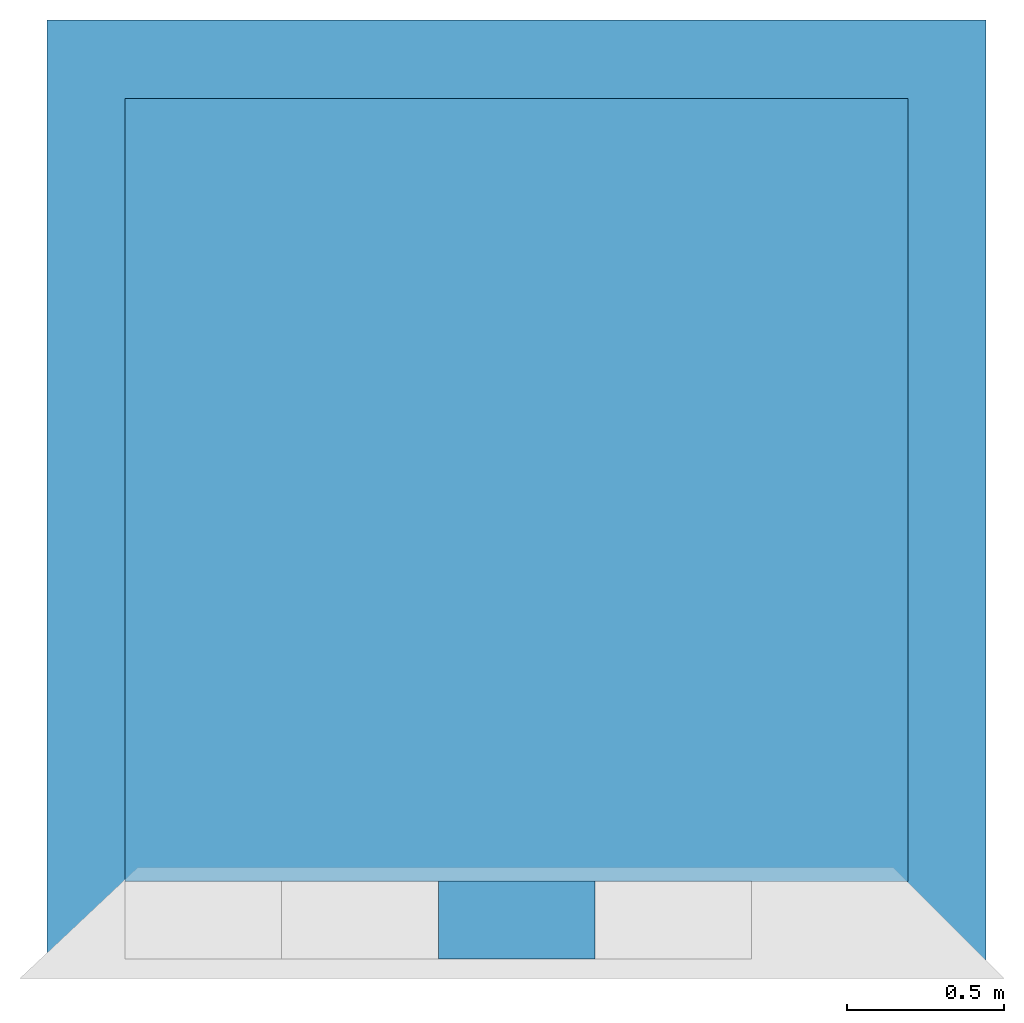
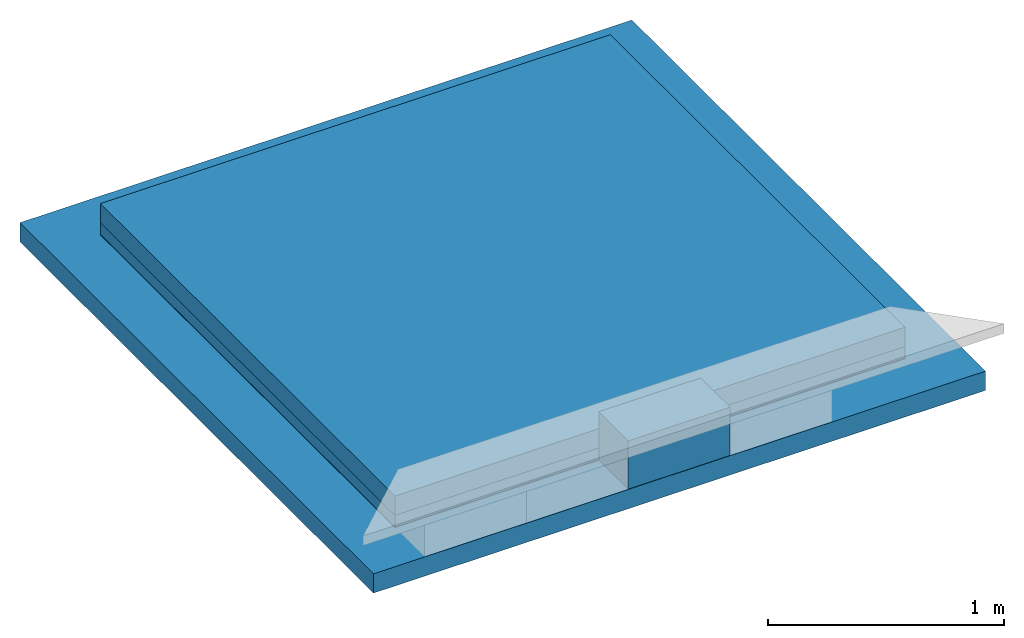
# One storey, part 2 of 3: 4 building element parts, 1 wall, 2 elements without a shape of their own.
"""IFC4 building model written with IfcOpenShell, lengths in centimetres."""

import ifcopenshell
import ifcopenshell.guid

model = None  # the IFC model being written
_history = None  # IfcOwnerHistory: only IFC2X3 demands one
_inside = {}  # id of a spatial element -> (the spatial element, [elements in it])
_under = {}  # id of a project, library or spatial element -> (it, [spatial elements below it])
_declared = {}  # id of a project -> (the project, [libraries it declares])
_typed = {}  # id of a type object -> (the type object, [elements of that type])
_made_of = {}  # id of a material, layer set ... -> (it, [elements and type objects made of it])


def new_model(schema):
    """Start an empty IFC model of exactly this schema.

    Asked for "IFC4X3", IfcOpenShell would pick the latest addendum, in which some entities
    have other attributes; the version numbers below select the first issue.
    IFC2X3 requires an IfcOwnerHistory on every rooted entity: one is made here for all.
    """
    global model, _history
    if schema == "IFC4X3":
        model = ifcopenshell.file(schema_version=(4, 3, 0, 0))
    else:
        model = ifcopenshell.file(schema=schema)
    _inside.clear()
    _under.clear()
    _declared.clear()
    _typed.clear()
    _made_of.clear()
    _history = None
    if model.schema == "IFC2X3":
        org = make("IfcOrganization", Name="unknown")
        user = make(
            "IfcPersonAndOrganization",
            ThePerson=make("IfcPerson", FamilyName="unknown"),
            TheOrganization=org,
        )
        app = make(
            "IfcApplication",
            ApplicationDeveloper=org,
            Version="unknown",
            ApplicationFullName="unknown",
            ApplicationIdentifier="unknown",
        )
        _history = make(
            "IfcOwnerHistory",
            OwningUser=user,
            OwningApplication=app,
            ChangeAction="ADDED",
            CreationDate=0,
        )
    return model


def make(cls, **values):
    """One entity of the class cls with the attributes given. An attribute that is None is left unset."""
    return model.create_entity(
        cls, **{name: value for name, value in values.items() if value is not None}
    )


def entity(cls, *values):
    """Any entity or typed value of the class cls, its attributes in the order of the schema. None: left unset."""
    e = model.create_entity(cls)
    for i, value in enumerate(values):
        if value is not None:
            e[i] = value
    return e


def rooted(cls, **values):
    """An entity with a GlobalId (a new one), such as an element, a storey or a relation."""
    return make(cls, GlobalId=ifcopenshell.guid.new(), OwnerHistory=_history, **values)


def si_unit(unit_type, name, prefix=None):
    """IfcSIUnit, for example si_unit("LENGTHUNIT", "METRE", prefix="MILLI")."""
    return make("IfcSIUnit", UnitType=unit_type, Prefix=prefix, Name=name)


def converted_unit(unit_type, name, factor, base, dimensions=None, offset=None):
    """IfcConversionBasedUnit, such as the inch: factor (a typed value) times the base unit."""
    return make(
        "IfcConversionBasedUnit"
        if offset is None
        else "IfcConversionBasedUnitWithOffset",
        ConversionOffset=offset,
        Dimensions=None
        if dimensions is None
        else entity("IfcDimensionalExponents", *dimensions),
        UnitType=unit_type,
        Name=name,
        ConversionFactor=make(
            "IfcMeasureWithUnit", ValueComponent=factor, UnitComponent=base
        ),
    )


def assignment(units):
    """IfcUnitAssignment: the units of a project."""
    return None if units is None else make("IfcUnitAssignment", Units=units)


def point(xyz):
    """IfcCartesianPoint."""
    return None if xyz is None else make("IfcCartesianPoint", Coordinates=xyz)


def direction(xyz):
    """IfcDirection."""
    return None if xyz is None else make("IfcDirection", DirectionRatios=xyz)


def frame(location, z_axis=None, x_axis=None):
    """IfcAxis2Placement3D, a coordinate frame: its origin and axes. An axis left out is left unset."""
    return make(
        "IfcAxis2Placement3D",
        Location=point(location),
        Axis=direction(z_axis),
        RefDirection=direction(x_axis),
    )


def origin():
    """The frame at (0, 0, 0) with its axes left unset."""
    return frame((0.0, 0.0, 0.0))


def place(relative_to, where):
    """IfcLocalPlacement: puts the frame where relative to a parent placement (None: the world)."""
    return make(
        "IfcLocalPlacement", PlacementRelTo=relative_to, RelativePlacement=where
    )


def context(
    kind, dimensions, precision=None, world=None, true_north=None, identifier=None
):
    """IfcGeometricRepresentationContext, for example the 3D "Model" context."""
    return make(
        "IfcGeometricRepresentationContext",
        ContextIdentifier=identifier,
        ContextType=kind,
        CoordinateSpaceDimension=dimensions,
        Precision=precision,
        WorldCoordinateSystem=world,
        TrueNorth=true_north,
    )


def subcontext(parent, identifier, kind, view, scale=None):
    """IfcGeometricRepresentationSubContext, for example "Body" below "Model"."""
    return make(
        "IfcGeometricRepresentationSubContext",
        ContextIdentifier=identifier,
        ContextType=kind,
        ParentContext=parent,
        TargetScale=scale,
        TargetView=view,
    )


def project(units=None, contexts=None):
    """IfcProject with its units and contexts."""
    return rooted(
        "IfcProject",
        Name="project",
        RepresentationContexts=contexts,
        UnitsInContext=assignment(units),
    )


def spatial(cls, under=None, at=None, **own):
    """A site, building, storey or space (cls), placed at a placement, below another one or the project."""
    s = rooted(cls, ObjectPlacement=at, **own)
    if under is not None:
        _under.setdefault(under.id(), (under, []))[1].append(s)
    return s


def point_list(points):
    """IfcCartesianPointList2D or 3D."""
    cls = (
        "IfcCartesianPointList2D" if len(points[0]) == 2 else "IfcCartesianPointList3D"
    )
    return make(cls, CoordList=points)


def indexed_curve(points, segments=None, self_intersect=None):
    """IfcIndexedPolyCurve: lines and arcs through numbered points (the first is 1)."""
    return make(
        "IfcIndexedPolyCurve",
        Points=point_list(points),
        Segments=segments,
        SelfIntersect=self_intersect,
    )


def outline(outer, holes=None, kind="AREA"):
    """IfcArbitraryClosedProfileDef: a profile drawn as a closed curve; with holes, ...WithVoids."""
    if holes is None:
        return make("IfcArbitraryClosedProfileDef", ProfileType=kind, OuterCurve=outer)
    return make(
        "IfcArbitraryProfileDefWithVoids",
        ProfileType=kind,
        OuterCurve=outer,
        InnerCurves=holes,
    )


def extrude(swept, where, along, depth):
    """IfcExtrudedAreaSolid: the profile swept, set in the frame where, extruded along a direction by depth."""
    return make(
        "IfcExtrudedAreaSolid",
        SweptArea=swept,
        Position=where,
        ExtrudedDirection=direction(along),
        Depth=depth,
    )


def shape(context_of_items, identifier, shape_type, items):
    """IfcShapeRepresentation: the items that make up one representation, for example the "Body"."""
    return make(
        "IfcShapeRepresentation",
        ContextOfItems=context_of_items,
        RepresentationIdentifier=identifier,
        RepresentationType=shape_type,
        Items=items,
    )


def material(Name=None, Category=None):
    """IfcMaterial."""
    return make("IfcMaterial", Name=Name, Category=Category)


def made_of(thing, what):
    """Note that an element or type object is made of a material, layer set ...; save() writes the relation."""
    if what is not None:
        _made_of.setdefault(what.id(), (what, []))[1].append(thing)
    return thing


def type_object(cls, material=None, **own):
    """A type object (cls), such as IfcWallType, which elements share."""
    return made_of(rooted(cls, **own), material)


def element(
    cls,
    number,
    at=None,
    inside=None,
    cuts=None,
    type_object=None,
    material=None,
    context=None,
    identifier="Body",
    shape_type=None,
    held_by="IfcProductDefinitionShape",
    body=None,
    shapes=None,
    **own,
):
    """One element of the class cls, such as IfcWall. Its Tag is "e" and its number.

    at: its placement. inside: the storey or other place that contains it. cuts: it is an
    opening in that element (IfcRelVoidsElement). A single representation is given by context,
    identifier, shape_type and body (its items); several are given by shapes. held_by: the class
    of the entity that holds the representations. save() writes the other relations.
    """
    e = rooted(cls, Tag="e%d" % number, ObjectPlacement=at, **own)
    if body is not None:
        shapes = [shape(context, identifier, shape_type, body)]
    if shapes is not None:
        e.Representation = make(held_by, Representations=shapes)
    if inside is not None:
        _inside.setdefault(inside.id(), (inside, []))[1].append(e)
    if cuts is not None:
        rooted(
            "IfcRelVoidsElement", RelatingBuildingElement=cuts, RelatedOpeningElement=e
        )
    if type_object is not None:
        _typed.setdefault(type_object.id(), (type_object, []))[1].append(e)
    return made_of(e, material)


def aggregate(whole, parts):
    """IfcRelAggregates: a whole, such as a stair, and the parts it consists of."""
    return rooted("IfcRelAggregates", RelatingObject=whole, RelatedObjects=parts)


def save(model, path):
    """Write the relations noted so far, then the file.

    IfcRelAggregates (storeys below a building ...), IfcRelContainedInSpatialStructure (elements
    in a storey), IfcRelDefinesByType, IfcRelAssociatesMaterial and IfcRelDeclares: one each for
    every whole, place, type object, material and project.
    """
    for whole, parts in _under.values():
        aggregate(whole, parts)
    for where, things in _inside.values():
        rooted(
            "IfcRelContainedInSpatialStructure",
            RelatedElements=things,
            RelatingStructure=where,
        )
    for kind, things in _typed.values():
        rooted("IfcRelDefinesByType", RelatedObjects=things, RelatingType=kind)
    for what, things in _made_of.values():
        rooted("IfcRelAssociatesMaterial", RelatedObjects=things, RelatingMaterial=what)
    for by, libraries in _declared.values():
        rooted("IfcRelDeclares", RelatingContext=by, RelatedDefinitions=libraries)
    model.write(path)


model = new_model("IFC4")

# Units and contexts
model_context = context("Model", 3, precision=0.001, world=origin(), true_north=direction((0.0, 1.0)))
body_context = subcontext(model_context, "Body", "Model", "MODEL_VIEW")
ifc_project = project(units=[si_unit("LENGTHUNIT", "METRE", prefix="CENTI"), si_unit("AREAUNIT", "SQUARE_METRE"), si_unit("VOLUMEUNIT", "CUBIC_METRE"), converted_unit("PLANEANGLEUNIT", "DEGREE", entity("IfcPlaneAngleMeasure", 0.017453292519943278), si_unit("PLANEANGLEUNIT", "RADIAN"), dimensions=[0, 0, 0, 0, 0, 0, 0])], contexts=[model_context])

# Site, building, storey
site_placement = place(None, origin())
site = spatial("IfcSite", under=ifc_project, at=site_placement, Name="Default", CompositionType="ELEMENT")
building_placement = place(site_placement, origin())
building = spatial("IfcBuilding", under=site, at=building_placement, CompositionType="ELEMENT")
storey_placement = place(building_placement, frame((0.0, 0.0, 256.0)))
storey = spatial("IfcBuildingStorey", under=building, at=storey_placement, Name="L01__ABOVE Slab", CompositionType="ELEMENT", Elevation=255.9999999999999)

# Wall
ifc_material_1 = material(Name="Miscellaneous__Timber Block__Triqbriq, X", Category="Miscellaneous")
wall_type = type_object("IfcWallType", Name="Columns : wll_s__TIMBER BLOCK__Triqbriq, Full Width__wp : WS25", PredefinedType="SOLIDWALL", material=ifc_material_1)
wall_placement = place(storey_placement, frame((3006.8289147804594, 2128.5200309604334, 0.0)))
element("IfcWall", 1, at=wall_placement, inside=storey, type_object=wall_type, material=ifc_material_1, Name="Columns : wll_s__TIMBER BLOCK__Triqbriq, Full Width__wp : WS25", PredefinedType="SOLIDWALL", context=body_context, shape_type="SweptSolid", body=[
    extrude(outline(indexed_curve([(-4.166666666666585, -4.166666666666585), (4.166666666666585, -4.166666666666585), (4.166666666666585, 4.166666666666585), (-4.166666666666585, 4.166666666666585), (-4.166666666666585, -4.166666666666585)], self_intersect=False)), frame((37.50000000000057, 12.500000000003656, 16.666666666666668), z_axis=(0.0, 0.0, 1.0), x_axis=(0.0, 1.0, 0.0)), (0.0, 0.0, 1.0), 8.333333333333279),
    extrude(outline(indexed_curve([(-4.166666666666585, -4.166666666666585), (4.166666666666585, -4.166666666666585), (4.166666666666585, 4.166666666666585), (-4.166666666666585, 4.166666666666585), (-4.166666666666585, -4.166666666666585)], self_intersect=False)), frame((12.500000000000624, 12.500000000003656, 16.666666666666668), z_axis=(0.0, 0.0, 1.0), x_axis=(0.0, 1.0, 0.0)), (0.0, 0.0, 1.0), 8.333333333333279),
    extrude(outline(indexed_curve([(-4.166666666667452, -4.166666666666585), (4.166666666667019, -4.166666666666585), (4.166666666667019, 4.166666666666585), (-4.166666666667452, 4.166666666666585), (-4.166666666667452, -4.166666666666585)], self_intersect=False)), frame((45.83333333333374, 20.83333333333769, 8.333333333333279), z_axis=(0.0, 0.0, 1.0), x_axis=(0.0, 1.0, 0.0)), (0.0, 0.0, 1.0), 8.333333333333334),
    extrude(outline(indexed_curve([(-4.166666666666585, -4.166666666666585), (4.166666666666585, -4.166666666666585), (4.166666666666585, 4.166666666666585), (-4.166666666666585, 4.166666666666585), (-4.166666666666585, -4.166666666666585)], self_intersect=False)), frame((45.83333333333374, 4.166666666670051, 8.333333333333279), z_axis=(0.0, 0.0, 1.0), x_axis=(0.0, 1.0, 0.0)), (0.0, 0.0, 1.0), 8.333333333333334),
    extrude(outline(indexed_curve([(-4.166666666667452, -4.166666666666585), (4.166666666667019, -4.166666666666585), (4.166666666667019, 4.166666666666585), (-4.166666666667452, 4.166666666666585), (-4.166666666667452, -4.166666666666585)], self_intersect=False)), frame((4.166666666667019, 20.83333333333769, 8.333333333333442), z_axis=(0.0, 0.0, 1.0), x_axis=(0.0, 1.0, 0.0)), (0.0, 0.0, 1.0), 8.333333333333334),
    extrude(outline(indexed_curve([(-4.166666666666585, -4.166666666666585), (4.166666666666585, -4.166666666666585), (4.166666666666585, 4.166666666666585), (-4.166666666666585, 4.166666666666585), (-4.166666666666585, -4.166666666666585)], self_intersect=False)), frame((4.166666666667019, 4.166666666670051, 8.333333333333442), z_axis=(0.0, 0.0, 1.0), x_axis=(0.0, 1.0, 0.0)), (0.0, 0.0, 1.0), 8.333333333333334),
    extrude(outline(indexed_curve([(-4.166666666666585, -8.33333333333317), (4.166666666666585, -8.33333333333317), (4.166666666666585, 8.333333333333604), (-4.166666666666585, 8.333333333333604), (-4.166666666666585, -8.33333333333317)], self_intersect=False)), frame((25.0, 4.166666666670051, 8.333333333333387), z_axis=(0.0, 0.0, 1.0), x_axis=(0.0, 1.0, 0.0)), (0.0, 0.0, 1.0), 8.333333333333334),
    extrude(outline(indexed_curve([(-4.166666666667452, -8.33333333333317), (4.166666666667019, -8.33333333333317), (4.166666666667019, 8.333333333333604), (-4.166666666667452, 8.333333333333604), (-4.166666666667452, -8.33333333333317)], self_intersect=False)), frame((25.0, 20.83333333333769, 8.333333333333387), z_axis=(0.0, 0.0, 1.0), x_axis=(0.0, 1.0, 0.0)), (0.0, 0.0, 1.0), 8.333333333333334),
    extrude(outline(indexed_curve([(-4.166666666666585, -24.999999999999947), (4.166666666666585, -24.999999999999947), (4.166666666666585, 24.999999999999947), (-4.166666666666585, 24.999999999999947), (-4.166666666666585, -24.999999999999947)], self_intersect=False)), frame((25.0, 12.500000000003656, 8.333333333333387), z_axis=(0.0, 0.0, 1.0), x_axis=(0.0, 1.0, 0.0)), (0.0, 0.0, 1.0), 8.333333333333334),
    extrude(outline(indexed_curve([(-12.50000000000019, -4.166666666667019), (12.500000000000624, -4.166666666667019), (12.500000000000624, 4.166666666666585), (-12.50000000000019, 4.166666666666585), (-12.50000000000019, -4.166666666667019)], self_intersect=False)), frame((29.1666666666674, 12.500000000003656, 0.0), z_axis=(0.0, 0.0, 1.0), x_axis=(0.0, 1.0, 0.0)), (0.0, 0.0, 1.0), 8.333333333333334),
    extrude(outline(indexed_curve([(-12.50000000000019, -4.166666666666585), (12.500000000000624, -4.166666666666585), (12.500000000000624, 4.166666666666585), (-12.50000000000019, 4.166666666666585), (-12.50000000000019, -4.166666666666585)], self_intersect=False)), frame((20.833333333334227, 12.500000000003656, 0.0), z_axis=(0.0, 0.0, 1.0), x_axis=(0.0, 1.0, 0.0)), (0.0, 0.0, 1.0), 8.333333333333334),
    extrude(outline(indexed_curve([(-12.50000000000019, -4.166666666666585), (12.500000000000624, -4.166666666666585), (12.500000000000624, 4.166666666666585), (-12.50000000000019, 4.166666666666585), (-12.50000000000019, -4.166666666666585)], self_intersect=False)), frame((45.833333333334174, 12.500000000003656, 0.0), z_axis=(0.0, 0.0, 1.0), x_axis=(0.0, 1.0, 0.0)), (0.0, 0.0, 1.0), 8.333333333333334),
    extrude(outline(indexed_curve([(-12.50000000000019, -4.166666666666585), (12.500000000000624, -4.166666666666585), (12.500000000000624, 4.166666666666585), (-12.50000000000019, 4.166666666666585), (-12.50000000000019, -4.166666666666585)], self_intersect=False)), frame((4.166666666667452, 12.500000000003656, 0.0), z_axis=(0.0, 0.0, 1.0), x_axis=(0.0, 1.0, 0.0)), (0.0, 0.0, 1.0), 8.333333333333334),
    extrude(outline(indexed_curve([(-4.166666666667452, -4.166666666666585), (4.166666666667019, -4.166666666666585), (4.166666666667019, 4.166666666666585), (-4.166666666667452, 4.166666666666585), (-4.166666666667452, -4.166666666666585)], self_intersect=False)), frame((37.500000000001, 20.83333333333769, 0.0), z_axis=(0.0, 0.0, 1.0), x_axis=(0.0, 1.0, 0.0)), (0.0, 0.0, 1.0), 25.0),
    extrude(outline(indexed_curve([(-4.166666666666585, -4.166666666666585), (4.166666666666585, -4.166666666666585), (4.166666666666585, 4.166666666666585), (-4.166666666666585, 4.166666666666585), (-4.166666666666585, -4.166666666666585)], self_intersect=False)), frame((37.500000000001, 4.166666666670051, 0.0), z_axis=(0.0, 0.0, 1.0), x_axis=(0.0, 1.0, 0.0)), (0.0, 0.0, 1.0), 25.0),
    extrude(outline(indexed_curve([(-4.166666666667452, -4.166666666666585), (4.166666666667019, -4.166666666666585), (4.166666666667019, 4.166666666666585), (-4.166666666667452, 4.166666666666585), (-4.166666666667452, -4.166666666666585)], self_intersect=False)), frame((12.500000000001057, 20.83333333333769, 0.0), z_axis=(0.0, 0.0, 1.0), x_axis=(0.0, 1.0, 0.0)), (0.0, 0.0, 1.0), 25.0),
    extrude(outline(indexed_curve([(-4.166666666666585, -4.166666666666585), (4.166666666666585, -4.166666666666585), (4.166666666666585, 4.166666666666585), (-4.166666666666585, 4.166666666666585), (-4.166666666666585, -4.166666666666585)], self_intersect=False)), frame((12.500000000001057, 4.166666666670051, 0.0), z_axis=(0.0, 0.0, 1.0), x_axis=(0.0, 1.0, 0.0)), (0.0, 0.0, 1.0), 25.0),
    extrude(outline(indexed_curve([(-12.50000000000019, -4.166666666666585), (12.500000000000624, -4.166666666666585), (12.500000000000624, 4.166666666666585), (-12.50000000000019, 4.166666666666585), (-12.50000000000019, -4.166666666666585)], self_intersect=False)), frame((45.83333333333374, 12.500000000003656, 16.666666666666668), z_axis=(0.0, 0.0, 1.0), x_axis=(0.0, 1.0, 0.0)), (0.0, 0.0, 1.0), 8.333333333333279),
    extrude(outline(indexed_curve([(-12.50000000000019, -4.166666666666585), (12.500000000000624, -4.166666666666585), (12.500000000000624, 4.166666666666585), (-12.50000000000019, 4.166666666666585), (-12.50000000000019, -4.166666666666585)], self_intersect=False)), frame((29.1666666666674, 12.500000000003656, 16.666666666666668), z_axis=(0.0, 0.0, 1.0), x_axis=(0.0, 1.0, 0.0)), (0.0, 0.0, 1.0), 8.333333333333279),
    extrude(outline(indexed_curve([(-12.50000000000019, -4.166666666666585), (12.500000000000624, -4.166666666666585), (12.500000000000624, 4.166666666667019), (-12.50000000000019, 4.166666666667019), (-12.50000000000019, -4.166666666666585)], self_intersect=False)), frame((20.833333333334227, 12.500000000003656, 16.666666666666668), z_axis=(0.0, 0.0, 1.0), x_axis=(0.0, 1.0, 0.0)), (0.0, 0.0, 1.0), 8.333333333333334),
    extrude(outline(indexed_curve([(-12.50000000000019, -4.166666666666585), (12.500000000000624, -4.166666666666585), (12.500000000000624, 4.166666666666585), (-12.50000000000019, 4.166666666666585), (-12.50000000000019, -4.166666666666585)], self_intersect=False)), frame((4.166666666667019, 12.500000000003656, 16.666666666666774), z_axis=(0.0, 0.0, 1.0), x_axis=(0.0, 1.0, 0.0)), (0.0, 0.0, 1.0), 8.333333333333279),
])

# Slab, building element part
slab_type_1 = type_object("IfcSlabType", Name="Floors : Floor : flr__STRUCTURE__Wood CLT 10cm__TriqBriq 2", PredefinedType="FLOOR")
slab_1_placement = place(storey_placement, origin())
slab_1 = element("IfcSlab", 2, at=slab_1_placement, inside=storey, type_object=slab_type_1, Name="Floors : Floor : flr__STRUCTURE__Wood CLT 10cm__TriqBriq 2", PredefinedType="FLOOR")
ifc_material_2 = material(Name="_STRUCTURE__Wood CLT")
building_element_part_1_placement = place(slab_1_placement, origin())
building_element_part_1 = element("IfcBuildingElementPart", 3, at=building_element_part_1_placement, material=ifc_material_2, Name="_STRUCTURE__Wood CLT", context=body_context, shape_type="SweptSolid", body=[
    extrude(outline(indexed_curve([(-150.10000000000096, -149.9999999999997), (150.1000000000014, -149.9999999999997), (150.1000000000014, 149.9999999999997), (-150.10000000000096, 149.9999999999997), (-150.10000000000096, -149.9999999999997)], self_intersect=False)), frame((3031.8289147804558, 2278.420030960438, -10.0), z_axis=(0.0, 0.0, 1.0), x_axis=(0.0, -1.0, 0.0)), (0.0, 0.0, 1.0), 10.0),
])
aggregate(slab_1, [building_element_part_1])

# Slab, building element parts
slab_type_2 = type_object("IfcSlabType", Name="Floors : Floor : flr__EXT ENCLOSURE__Vegetation, 13.4cm__TriqBriq 2", PredefinedType="FLOOR")
slab_2_placement = place(storey_placement, origin())
slab_2 = element("IfcSlab", 4, at=slab_2_placement, inside=storey, type_object=slab_type_2, Name="Floors : Floor : flr__EXT ENCLOSURE__Vegetation, 13.4cm__TriqBriq 2", PredefinedType="FLOOR")
ifc_material_3 = material(Name="_GREENERY__Subgrade__Earth")
building_element_part_2_placement = place(slab_2_placement, origin())
building_element_part_2 = element("IfcBuildingElementPart", 5, at=building_element_part_2_placement, material=ifc_material_3, Name="_GREENERY__Subgrade__Earth", context=body_context, shape_type="SweptSolid", body=[
    extrude(outline(indexed_curve([(-125.04999999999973, -125.00000000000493), (125.04999999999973, -125.00000000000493), (125.04999999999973, 125.00000000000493), (-125.04999999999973, 125.00000000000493), (-125.04999999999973, -125.00000000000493)], self_intersect=False)), frame((3031.8289147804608, 2278.470030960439, 6.299999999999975), z_axis=(0.0, 0.0, 1.0), x_axis=(0.0, -1.0, 0.0)), (0.0, 0.0, 1.0), 10.0),
])
ifc_material_4 = material(Name="_FLR LAYERS__Equalization Infill__Gravel", Category="Unassigned")
building_element_part_3_placement = place(slab_2_placement, origin())
building_element_part_3 = element("IfcBuildingElementPart", 6, at=building_element_part_3_placement, material=ifc_material_4, Name="_FLR LAYERS__Equalization Infill__Gravel", context=body_context, shape_type="SweptSolid", body=[
    extrude(outline(indexed_curve([(-125.04999999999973, -125.00000000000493), (125.04999999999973, -125.00000000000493), (125.04999999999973, 125.00000000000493), (-125.04999999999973, 125.00000000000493), (-125.04999999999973, -125.00000000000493)], self_intersect=False)), frame((3031.8289147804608, 2278.470030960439, 0.29999999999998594), z_axis=(0.0, 0.0, 1.0), x_axis=(0.0, -1.0, 0.0)), (0.0, 0.0, 1.0), 5.999999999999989),
])
ifc_material_5 = material(Name="_FLAT ROOF LAYERS__WP Membrane", Category="Unassigned")
building_element_part_4_placement = place(slab_2_placement, origin())
building_element_part_4 = element("IfcBuildingElementPart", 7, at=building_element_part_4_placement, material=ifc_material_5, Name="_FLAT ROOF LAYERS__WP Membrane", context=body_context, shape_type="SweptSolid", body=[
    extrude(outline(indexed_curve([(-125.04999999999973, -125.00000000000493), (125.04999999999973, -125.00000000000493), (125.04999999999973, 125.00000000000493), (-125.04999999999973, 125.00000000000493), (-125.04999999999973, -125.00000000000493)], self_intersect=False)), frame((3031.8289147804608, 2278.470030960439, 0.0), z_axis=(0.0, 0.0, 1.0), x_axis=(0.0, -1.0, 0.0)), (0.0, 0.0, 1.0), 0.29999999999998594),
])
aggregate(slab_2, [building_element_part_2, building_element_part_3, building_element_part_4])

save(model, "model.ifc")
